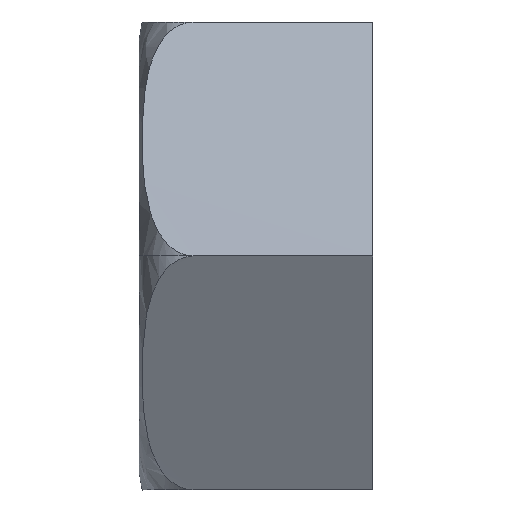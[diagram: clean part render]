
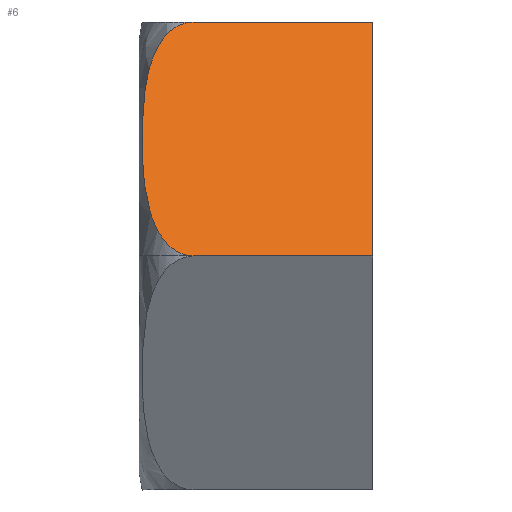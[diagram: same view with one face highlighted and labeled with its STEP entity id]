
A CAD part, front view. The second image highlights one B-rep face of the part: STEP entity #6.
In plain terms, the highlighted planar face has unit normal (0, -0.866, 0.5).
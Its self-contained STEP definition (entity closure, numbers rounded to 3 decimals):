
#6 = ADVANCED_FACE ( 'NONE', ( #1276 ), #1109, .T. ) ;
#80 = CARTESIAN_POINT ( 'NONE',  ( -39.5, -40.751, -87.503 ) ) ;
#81 = CARTESIAN_POINT ( 'NONE',  ( -37.833, -40.753, -87.5 ) ) ;
#82 = CARTESIAN_POINT ( 'NONE',  ( -36.167, -40.753, -87.5 ) ) ;
#116 = CARTESIAN_POINT ( 'NONE',  ( -34.5, -40.75, -87.504 ) ) ;
#231 = CARTESIAN_POINT ( 'NONE',  ( -34.5, -40.75, -87.504 ) ) ;
#232 = VERTEX_POINT ( 'NONE', #282 ) ;
#234 = CARTESIAN_POINT ( 'NONE',  ( -39.5, -40.751, -87.503 ) ) ;
#236 = CARTESIAN_POINT ( 'NONE',  ( -34.5, -44.501, -94. ) ) ;
#282 = CARTESIAN_POINT ( 'NONE',  ( -39.5, -44.501, -94. ) ) ;
#558 = VERTEX_POINT ( 'NONE', #234 ) ;
#673 = VERTEX_POINT ( 'NONE', #231 ) ;
#683 = VERTEX_POINT ( 'NONE', #236 ) ;
#1098 = DIRECTION ( 'NONE',  ( 0., 0.5, 0.866 ) ) ;
#1099 = DIRECTION ( 'NONE',  ( 0., -0.866, 0.5 ) ) ;
#1108 = CARTESIAN_POINT ( 'NONE',  ( -34.5, -44.506, -94. ) ) ;
#1109 = PLANE ( 'NONE',  #1292 ) ;
#1185 = ORIENTED_EDGE ( 'NONE', *, *, #1327, .F. ) ;
#1195 = ORIENTED_EDGE ( 'NONE', *, *, #1323, .T. ) ;
#1213 = EDGE_LOOP ( 'NONE', ( #1195, #1185, #1358, #1354 ) ) ;
#1276 = FACE_OUTER_BOUND ( 'NONE', #1213, .T. ) ;
#1284 = EDGE_CURVE ( 'NONE', #673, #558, #1765, .T. ) ;
#1292 = AXIS2_PLACEMENT_3D ( 'NONE', #1108, #1099, #1098 ) ;
#1306 = EDGE_CURVE ( 'NONE', #558, #232, #1782, .T. ) ;
#1323 = EDGE_CURVE ( 'NONE', #232, #683, #1775, .T. ) ;
#1327 = EDGE_CURVE ( 'NONE', #673, #683, #1770, .T. ) ;
#1354 = ORIENTED_EDGE ( 'NONE', *, *, #1306, .T. ) ;
#1358 = ORIENTED_EDGE ( 'NONE', *, *, #1284, .T. ) ;
#1395 = CARTESIAN_POINT ( 'NONE',  ( -39.5, -40.751, -87.503 ) ) ;
#1397 = CARTESIAN_POINT ( 'NONE',  ( -40.742, -43.698, -92.601 ) ) ;
#1399 = CARTESIAN_POINT ( 'NONE',  ( -39.586, -40.757, -87.508 ) ) ;
#1407 = CARTESIAN_POINT ( 'NONE',  ( -39.672, -44.5, -93.99 ) ) ;
#1413 = CARTESIAN_POINT ( 'NONE',  ( -37.833, -44.506, -94. ) ) ;
#1428 = CARTESIAN_POINT ( 'NONE',  ( -40.43, -44.151, -93.386 ) ) ;
#1452 = CARTESIAN_POINT ( 'NONE',  ( -36.167, -44.506, -94. ) ) ;
#1463 = CARTESIAN_POINT ( 'NONE',  ( -39.5, -44.501, -94. ) ) ;
#1471 = CARTESIAN_POINT ( 'NONE',  ( -40.03, -44.402, -93.821 ) ) ;
#1475 = CARTESIAN_POINT ( 'NONE',  ( -40.737, -43.711, -92.624 ) ) ;
#1485 = CARTESIAN_POINT ( 'NONE',  ( -34.5, -44.501, -94. ) ) ;
#1528 = CARTESIAN_POINT ( 'NONE',  ( -34.5, -44.501, -94. ) ) ;
#1540 = CARTESIAN_POINT ( 'NONE',  ( -40.352, -44.221, -93.507 ) ) ;
#1545 = CARTESIAN_POINT ( 'NONE',  ( -40.07, -44.386, -93.792 ) ) ;
#1547 = CARTESIAN_POINT ( 'NONE',  ( -40.421, -44.16, -93.401 ) ) ;
#1552 = CARTESIAN_POINT ( 'NONE',  ( -39.836, -44.472, -93.942 ) ) ;
#1558 = CARTESIAN_POINT ( 'NONE',  ( -40.696, -43.803, -92.783 ) ) ;
#1559 = CARTESIAN_POINT ( 'NONE',  ( -40.254, -44.293, -93.632 ) ) ;
#1571 = CARTESIAN_POINT ( 'NONE',  ( -39.5, -44.501, -94. ) ) ;
#1572 = CARTESIAN_POINT ( 'NONE',  ( -40.145, -44.351, -93.731 ) ) ;
#1582 = CARTESIAN_POINT ( 'NONE',  ( -40.738, -43.709, -92.619 ) ) ;
#1587 = CARTESIAN_POINT ( 'NONE',  ( -40.9, -42.205, -90.015 ) ) ;
#1591 = CARTESIAN_POINT ( 'NONE',  ( -34.5, -43.253, -91.83 ) ) ;
#1592 = CARTESIAN_POINT ( 'NONE',  ( -40.071, -40.87, -87.703 ) ) ;
#1593 = CARTESIAN_POINT ( 'NONE',  ( -40.481, -41.153, -88.193 ) ) ;
#1594 = CARTESIAN_POINT ( 'NONE',  ( -40.404, -41.084, -88.073 ) ) ;
#1597 = CARTESIAN_POINT ( 'NONE',  ( -34.5, -40.75, -87.504 ) ) ;
#1599 = CARTESIAN_POINT ( 'NONE',  ( -39.912, -40.813, -87.604 ) ) ;
#1603 = CARTESIAN_POINT ( 'NONE',  ( -40.915, -42.408, -90.367 ) ) ;
#1611 = CARTESIAN_POINT ( 'NONE',  ( -40.915, -42.855, -91.141 ) ) ;
#1612 = CARTESIAN_POINT ( 'NONE',  ( -40.893, -43.158, -91.666 ) ) ;
#1616 = CARTESIAN_POINT ( 'NONE',  ( -40.749, -43.683, -92.575 ) ) ;
#1617 = CARTESIAN_POINT ( 'NONE',  ( -40.74, -43.704, -92.612 ) ) ;
#1621 = CARTESIAN_POINT ( 'NONE',  ( -39.833, -40.792, -87.569 ) ) ;
#1622 = CARTESIAN_POINT ( 'NONE',  ( -40.184, -40.923, -87.794 ) ) ;
#1623 = CARTESIAN_POINT ( 'NONE',  ( -39.669, -40.764, -87.52 ) ) ;
#1627 = CARTESIAN_POINT ( 'NONE',  ( -40.828, -43.454, -92.179 ) ) ;
#1628 = CARTESIAN_POINT ( 'NONE',  ( -40.359, -41.045, -88.006 ) ) ;
#1629 = CARTESIAN_POINT ( 'NONE',  ( -40.303, -41.001, -87.93 ) ) ;
#1630 = CARTESIAN_POINT ( 'NONE',  ( -40.382, -41.064, -88.04 ) ) ;
#1631 = CARTESIAN_POINT ( 'NONE',  ( -40.84, -41.843, -89.389 ) ) ;
#1632 = CARTESIAN_POINT ( 'NONE',  ( -40.727, -41.528, -88.843 ) ) ;
#1633 = CARTESIAN_POINT ( 'NONE',  ( -40.731, -41.538, -88.86 ) ) ;
#1638 = CARTESIAN_POINT ( 'NONE',  ( -40.735, -41.545, -88.872 ) ) ;
#1639 = CARTESIAN_POINT ( 'NONE',  ( -40.735, -41.546, -88.873 ) ) ;
#1640 = CARTESIAN_POINT ( 'NONE',  ( -40.795, -41.685, -89.114 ) ) ;
#1641 = CARTESIAN_POINT ( 'NONE',  ( -40.573, -41.256, -88.371 ) ) ;
#1642 = CARTESIAN_POINT ( 'NONE',  ( -40.398, -41.078, -88.063 ) ) ;
#1643 = CARTESIAN_POINT ( 'NONE',  ( -40.661, -41.395, -88.613 ) ) ;
#1644 = CARTESIAN_POINT ( 'NONE',  ( -40.785, -43.588, -92.411 ) ) ;
#1645 = CARTESIAN_POINT ( 'NONE',  ( -40.733, -41.542, -88.867 ) ) ;
#1656 = CARTESIAN_POINT ( 'NONE',  ( -40.761, -43.652, -92.521 ) ) ;
#1660 = CARTESIAN_POINT ( 'NONE',  ( -40.7, -41.47, -88.742 ) ) ;
#1661 = CARTESIAN_POINT ( 'NONE',  ( -40.718, -41.508, -88.809 ) ) ;
#1682 = CARTESIAN_POINT ( 'NONE',  ( -40.471, -44.111, -93.317 ) ) ;
#1683 = CARTESIAN_POINT ( 'NONE',  ( -40.526, -44.053, -93.217 ) ) ;
#1684 = CARTESIAN_POINT ( 'NONE',  ( -40.447, -44.135, -93.359 ) ) ;
#1685 = CARTESIAN_POINT ( 'NONE',  ( -40.627, -43.927, -92.998 ) ) ;
#1745 = CARTESIAN_POINT ( 'NONE',  ( -34.5, -42.006, -89.67 ) ) ;
#1765 = B_SPLINE_CURVE_WITH_KNOTS ( 'NONE', 3,
 ( #116, #82, #81, #80 ),
 .UNSPECIFIED., .F., .F.,
 ( 4, 4 ),
 ( 0., 1. ),
 .UNSPECIFIED. ) ;
#1770 = B_SPLINE_CURVE_WITH_KNOTS ( 'NONE', 3,
 ( #1597, #1745, #1591, #1528 ),
 .UNSPECIFIED., .F., .F.,
 ( 4, 4 ),
 ( 0., 1. ),
 .UNSPECIFIED. ) ;
#1775 = B_SPLINE_CURVE_WITH_KNOTS ( 'NONE', 3,
 ( #1571, #1413, #1452, #1485 ),
 .UNSPECIFIED., .F., .F.,
 ( 4, 4 ),
 ( 0., 1. ),
 .UNSPECIFIED. ) ;
#1782 = B_SPLINE_CURVE_WITH_KNOTS ( 'NONE', 3,
 ( #1395, #1399, #1623, #1621, #1599, #1592, #1622, #1629, #1628, #1630, #1642, #1594, #1593, #1641, #1643, #1660, #1661, #1632, #1633, #1645, #1638, #1639, #1640, #1631, #1587, #1603, #1611, #1612, #1627, #1644, #1656, #1616, #1397, #1617, #1582, #1475, #1558, #1685, #1683, #1682, #1684, #1428, #1547, #1540, #1559, #1572, #1545, #1471, #1552, #1407, #1463 ),
 .UNSPECIFIED., .F., .F.,
 ( 4, 2, 2, 1, 1, 1, 2, 2, 1, 1, 1, 1, 1, 1, 2, 2, 2, 2, 1, 1, 1, 1, 1, 1, 2, 2, 1, 1, 1, 2, 2, 1, 2, 2, 4 ),
 ( 0., 0.062, 0.125, 0.187, 0.219, 0.234, 0.242, 0.25, 0.312, 0.344, 0.359, 0.367, 0.371, 0.373, 0.374, 0.375, 0.437, 0.5, 0.562, 0.594, 0.609, 0.617, 0.621, 0.623, 0.624, 0.625, 0.687, 0.719, 0.734, 0.742, 0.75, 0.812, 0.844, 0.875, 1. ),
 .UNSPECIFIED. ) ;
